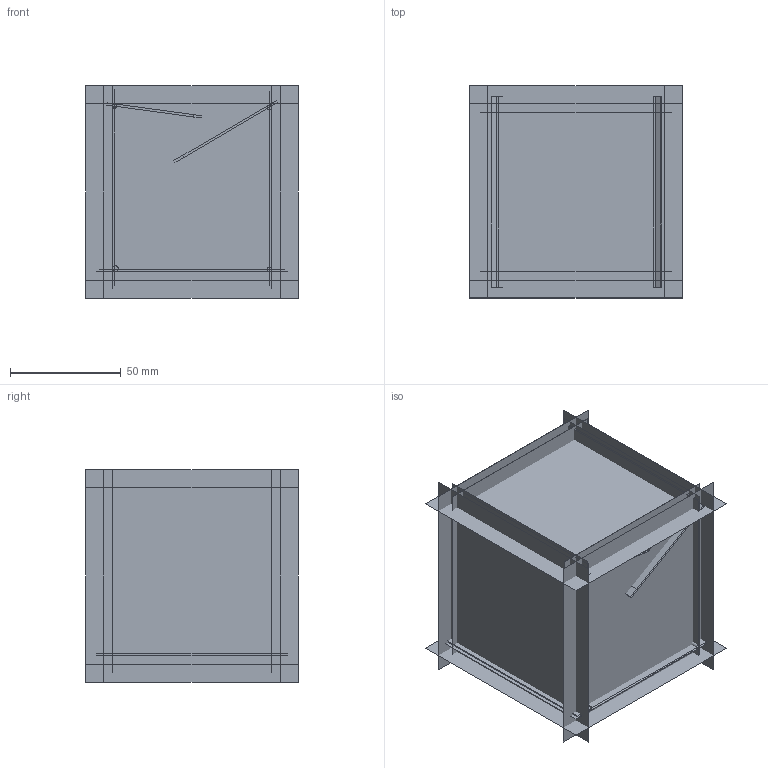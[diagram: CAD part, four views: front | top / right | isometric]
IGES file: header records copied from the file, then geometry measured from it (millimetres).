
Global section: file name: C:\Users\utente\Desktop\3d sito\CUBO\cubo L.igs; native system: Rhinoceros ( Mar  9 2011 ); preprocessor: Trout Lake IGES 012 Mar  9 2011; date: 170517.134807; units: millimetre
Bounding box: 96 x 96 x 96 mm (x, y, z)
Surface area: 174278.2 mm2 (no closed solid volume)
Topology: 0 solids, 0 shells, 29 faces, 112 edges, 108 vertices
Faces by surface type: bspline 29
